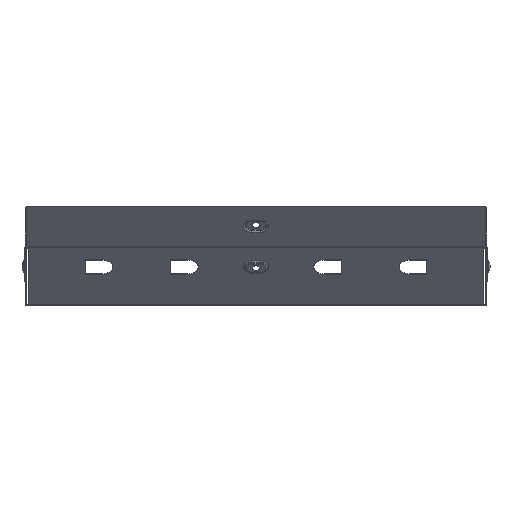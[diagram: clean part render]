
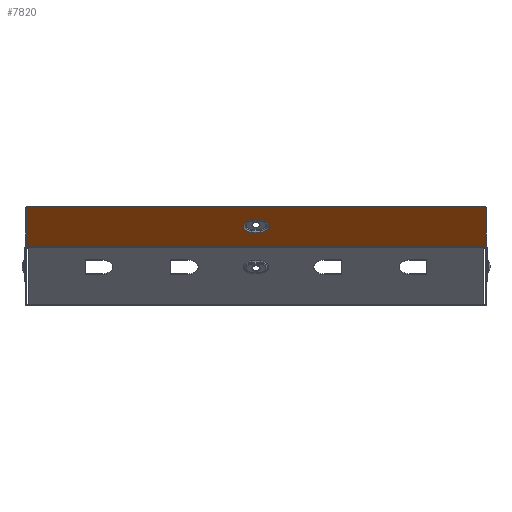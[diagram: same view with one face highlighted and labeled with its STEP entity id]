
A CAD part, top view. The second image highlights one B-rep face of the part: STEP entity #7820.
In plain terms, the highlighted planar face has unit normal (0, -0.707, 0.707).
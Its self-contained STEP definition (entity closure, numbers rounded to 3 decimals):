
#279 = CARTESIAN_POINT ( 'NONE',  ( 3.5, 23.192, 86.823 ) ) ;
#605 = VERTEX_POINT ( 'NONE', #14306 ) ;
#743 = AXIS2_PLACEMENT_3D ( 'NONE', #10921, #11021, #12103 ) ;
#885 = CARTESIAN_POINT ( 'NONE',  ( 199., -0.273, 63.359 ) ) ;
#907 = ORIENTED_EDGE ( 'NONE', *, *, #3749, .T. ) ;
#1300 = LINE ( 'NONE', #5907, #11110 ) ;
#1582 = DIRECTION ( 'NONE',  ( -1., 0., 0. ) ) ;
#1731 = ORIENTED_EDGE ( 'NONE', *, *, #13103, .F. ) ;
#1745 = VECTOR ( 'NONE', #3757, 1000. ) ;
#1778 = LINE ( 'NONE', #14359, #3652 ) ;
#1978 = CARTESIAN_POINT ( 'NONE',  ( -3.5, 12.446, 76.078 ) ) ;
#2287 = CARTESIAN_POINT ( 'NONE',  ( -199., 34.79, 98.421 ) ) ;
#2499 = VECTOR ( 'NONE', #1582, 1000. ) ;
#2613 = VECTOR ( 'NONE', #14079, 1000. ) ;
#2632 = VERTEX_POINT ( 'NONE', #885 ) ;
#2789 = LINE ( 'NONE', #14223, #2613 ) ;
#2999 = VERTEX_POINT ( 'NONE', #279 ) ;
#3241 = EDGE_CURVE ( 'NONE', #4696, #6738, #6314, .T. ) ;
#3652 = VECTOR ( 'NONE', #11075, 1000. ) ;
#3749 = EDGE_CURVE ( 'NONE', #605, #8003, #2789, .T. ) ;
#3757 = DIRECTION ( 'NONE',  ( -1., 0., 0. ) ) ;
#3840 = EDGE_CURVE ( 'NONE', #605, #2632, #1778, .T. ) ;
#3888 = CARTESIAN_POINT ( 'NONE',  ( -3.5, 17.819, 81.45 ) ) ;
#4488 = VECTOR ( 'NONE', #12130, 1000. ) ;
#4696 = VERTEX_POINT ( 'NONE', #10590 ) ;
#4912 = EDGE_CURVE ( 'NONE', #6738, #13882, #8552, .T. ) ;
#4945 = LINE ( 'NONE', #8479, #2499 ) ;
#5717 = EDGE_LOOP ( 'NONE', ( #1731, #9271, #9575, #13823 ) ) ;
#5907 = CARTESIAN_POINT ( 'NONE',  ( -199., -0.566, 63.066 ) ) ;
#6314 = CIRCLE ( 'NONE', #11536, 7.598 ) ;
#6359 = CARTESIAN_POINT ( 'NONE',  ( 199., -0.566, 63.066 ) ) ;
#6369 = EDGE_CURVE ( 'NONE', #8003, #9219, #1300, .T. ) ;
#6568 = CARTESIAN_POINT ( 'NONE',  ( -3.5, 12.446, 76.078 ) ) ;
#6738 = VERTEX_POINT ( 'NONE', #1978 ) ;
#7050 = CARTESIAN_POINT ( 'NONE',  ( -199., -0.273, 63.359 ) ) ;
#7368 = DIRECTION ( 'NONE',  ( 0., -0.707, -0.707 ) ) ;
#7404 = FACE_BOUND ( 'NONE', #5717, .T. ) ;
#7684 = ORIENTED_EDGE ( 'NONE', *, *, #6369, .T. ) ;
#7820 = ADVANCED_FACE ( 'NONE', ( #7404, #14246 ), #9749, .F. ) ;
#8003 = VERTEX_POINT ( 'NONE', #2287 ) ;
#8269 = CARTESIAN_POINT ( 'NONE',  ( 199., -0.273, 63.359 ) ) ;
#8273 = CIRCLE ( 'NONE', #743, 7.598 ) ;
#8479 = CARTESIAN_POINT ( 'NONE',  ( -3.5, 23.192, 86.823 ) ) ;
#8552 = LINE ( 'NONE', #6568, #4488 ) ;
#8679 = AXIS2_PLACEMENT_3D ( 'NONE', #6359, #14219, #9649 ) ;
#9219 = VERTEX_POINT ( 'NONE', #7050 ) ;
#9271 = ORIENTED_EDGE ( 'NONE', *, *, #4912, .F. ) ;
#9575 = ORIENTED_EDGE ( 'NONE', *, *, #3241, .F. ) ;
#9649 = DIRECTION ( 'NONE',  ( 0., 0.707, 0.707 ) ) ;
#9749 = PLANE ( 'NONE',  #8679 ) ;
#10244 = EDGE_CURVE ( 'NONE', #2632, #9219, #12397, .T. ) ;
#10389 = DIRECTION ( 'NONE',  ( 0., -0.707, -0.707 ) ) ;
#10590 = CARTESIAN_POINT ( 'NONE',  ( -3.5, 23.192, 86.823 ) ) ;
#10813 = ORIENTED_EDGE ( 'NONE', *, *, #10244, .F. ) ;
#10921 = CARTESIAN_POINT ( 'NONE',  ( 3.5, 17.819, 81.45 ) ) ;
#11021 = DIRECTION ( 'NONE',  ( 0., -0.707, 0.707 ) ) ;
#11075 = DIRECTION ( 'NONE',  ( 0., -0.707, -0.707 ) ) ;
#11110 = VECTOR ( 'NONE', #10389, 1000. ) ;
#11536 = AXIS2_PLACEMENT_3D ( 'NONE', #3888, #14100, #7368 ) ;
#11749 = CARTESIAN_POINT ( 'NONE',  ( 3.5, 12.446, 76.078 ) ) ;
#12103 = DIRECTION ( 'NONE',  ( 0., -0.707, -0.707 ) ) ;
#12130 = DIRECTION ( 'NONE',  ( 1., 0., 0. ) ) ;
#12397 = LINE ( 'NONE', #8269, #1745 ) ;
#12515 = EDGE_CURVE ( 'NONE', #2999, #4696, #4945, .T. ) ;
#12861 = ORIENTED_EDGE ( 'NONE', *, *, #3840, .F. ) ;
#13091 = EDGE_LOOP ( 'NONE', ( #7684, #10813, #12861, #907 ) ) ;
#13103 = EDGE_CURVE ( 'NONE', #13882, #2999, #8273, .T. ) ;
#13823 = ORIENTED_EDGE ( 'NONE', *, *, #12515, .F. ) ;
#13882 = VERTEX_POINT ( 'NONE', #11749 ) ;
#14079 = DIRECTION ( 'NONE',  ( -1., 0., 0. ) ) ;
#14100 = DIRECTION ( 'NONE',  ( 0., -0.707, 0.707 ) ) ;
#14219 = DIRECTION ( 'NONE',  ( 0., 0.707, -0.707 ) ) ;
#14223 = CARTESIAN_POINT ( 'NONE',  ( 199., 34.79, 98.421 ) ) ;
#14246 = FACE_OUTER_BOUND ( 'NONE', #13091, .T. ) ;
#14306 = CARTESIAN_POINT ( 'NONE',  ( 199., 34.79, 98.421 ) ) ;
#14359 = CARTESIAN_POINT ( 'NONE',  ( 199., -0.566, 63.066 ) ) ;
